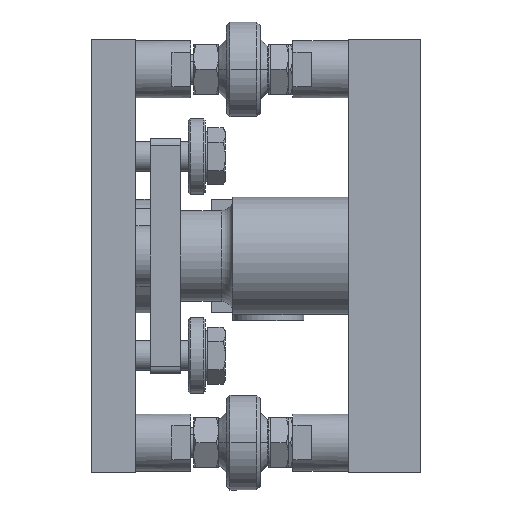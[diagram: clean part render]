
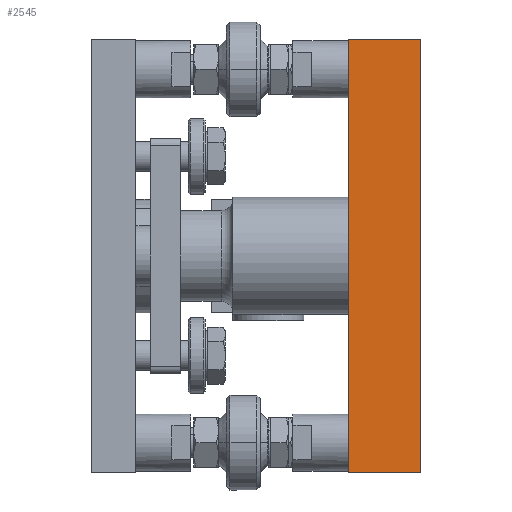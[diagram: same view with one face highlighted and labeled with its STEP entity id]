
A CAD part, left-side view. The second image highlights one B-rep face of the part: STEP entity #2545.
In plain terms, the highlighted planar face has unit normal (-1, 0, 0).
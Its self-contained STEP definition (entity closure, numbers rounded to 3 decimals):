
#2545 = ADVANCED_FACE ( 'NONE', ( #363122 ), #240736, .F. ) ;
#10451 = CARTESIAN_POINT ( 'NONE',  ( -100., 0., -57.15 ) ) ;
#12707 = LINE ( 'NONE', #37535, #328678 ) ;
#19449 = ORIENTED_EDGE ( 'NONE', *, *, #342825, .F. ) ;
#25253 = ORIENTED_EDGE ( 'NONE', *, *, #358662, .T. ) ;
#27895 = CARTESIAN_POINT ( 'NONE',  ( -100., 19.05, -57.15 ) ) ;
#32998 = CARTESIAN_POINT ( 'NONE',  ( -100., 19.05, -57.15 ) ) ;
#37535 = CARTESIAN_POINT ( 'NONE',  ( -100., 19.05, -57.15 ) ) ;
#41734 = CARTESIAN_POINT ( 'NONE',  ( -100., 0., -57.15 ) ) ;
#65889 = CARTESIAN_POINT ( 'NONE',  ( -100., 19.05, -57.15 ) ) ;
#81414 = VECTOR ( 'NONE', #235697, 1000. ) ;
#87997 = LINE ( 'NONE', #176175, #157778 ) ;
#92730 = DIRECTION ( 'NONE',  ( 0., 0., -1. ) ) ;
#106299 = AXIS2_PLACEMENT_3D ( 'NONE', #32998, #270618, #92730 ) ;
#132621 = CARTESIAN_POINT ( 'NONE',  ( -100., 19.05, 57.15 ) ) ;
#144578 = CARTESIAN_POINT ( 'NONE',  ( -100., 0., 57.15 ) ) ;
#157778 = VECTOR ( 'NONE', #205959, 1000. ) ;
#176175 = CARTESIAN_POINT ( 'NONE',  ( -100., 19.05, 57.15 ) ) ;
#189560 = VECTOR ( 'NONE', #249472, 1000. ) ;
#192944 = VERTEX_POINT ( 'NONE', #10451 ) ;
#205959 = DIRECTION ( 'NONE',  ( 0., -1., 0. ) ) ;
#211971 = EDGE_CURVE ( 'NONE', #245470, #354211, #12707, .T. ) ;
#214952 = EDGE_CURVE ( 'NONE', #245470, #192944, #308876, .T. ) ;
#235697 = DIRECTION ( 'NONE',  ( 0., -1., 0. ) ) ;
#240736 = PLANE ( 'NONE',  #106299 ) ;
#245281 = DIRECTION ( 'NONE',  ( 0., 0., 1. ) ) ;
#245470 = VERTEX_POINT ( 'NONE', #65889 ) ;
#249472 = DIRECTION ( 'NONE',  ( 0., 0., 1. ) ) ;
#268473 = LINE ( 'NONE', #41734, #189560 ) ;
#270618 = DIRECTION ( 'NONE',  ( 1., 0., 0. ) ) ;
#278747 = ORIENTED_EDGE ( 'NONE', *, *, #211971, .F. ) ;
#308876 = LINE ( 'NONE', #27895, #81414 ) ;
#328678 = VECTOR ( 'NONE', #245281, 1000. ) ;
#337047 = EDGE_LOOP ( 'NONE', ( #25253, #19449, #278747, #382061 ) ) ;
#342825 = EDGE_CURVE ( 'NONE', #354211, #379513, #87997, .T. ) ;
#354211 = VERTEX_POINT ( 'NONE', #132621 ) ;
#358662 = EDGE_CURVE ( 'NONE', #192944, #379513, #268473, .T. ) ;
#363122 = FACE_OUTER_BOUND ( 'NONE', #337047, .T. ) ;
#379513 = VERTEX_POINT ( 'NONE', #144578 ) ;
#382061 = ORIENTED_EDGE ( 'NONE', *, *, #214952, .T. ) ;
